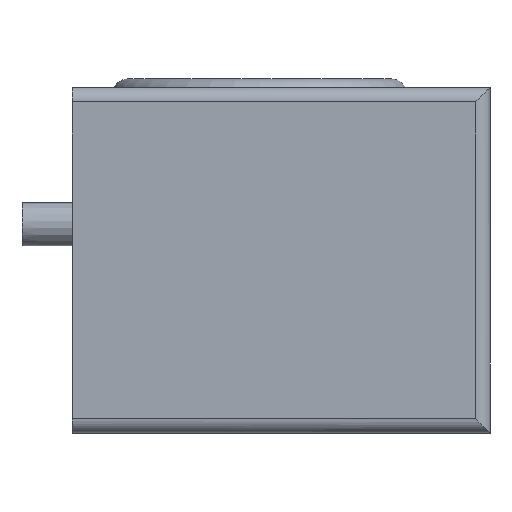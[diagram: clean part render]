
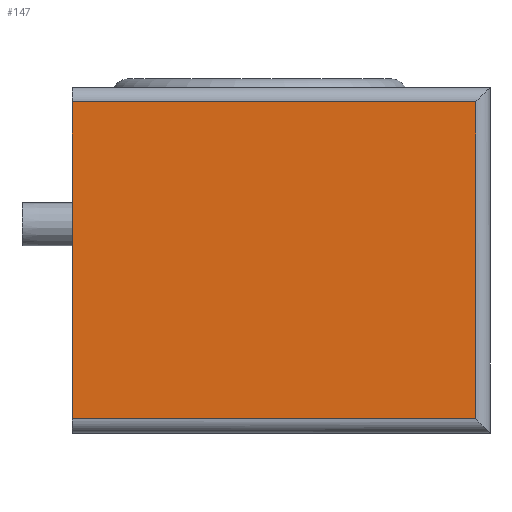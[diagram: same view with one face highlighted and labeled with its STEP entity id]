
A CAD part, left-side view. The second image highlights one B-rep face of the part: STEP entity #147.
In plain terms, the highlighted planar face has unit normal (-1, 0, 0).
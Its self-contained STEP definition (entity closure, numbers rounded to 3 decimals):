
#147=ADVANCED_FACE('',(#336),#337,.F.);
#336=FACE_OUTER_BOUND('',#570,.T.);
#337=PLANE('',#571);
#570=EDGE_LOOP('',(#910,#911,#912,#913));
#571=AXIS2_PLACEMENT_3D('',#914,#915,#916);
#910=ORIENTED_EDGE('',*,*,#1239,.T.);
#911=ORIENTED_EDGE('',*,*,#1240,.T.);
#912=ORIENTED_EDGE('',*,*,#1241,.T.);
#913=ORIENTED_EDGE('',*,*,#1242,.T.);
#914=CARTESIAN_POINT('',(-17.0,0.,9.5));
#915=DIRECTION('',(1.0,0.0,0.0));
#916=DIRECTION('',(0.0,1.0,0.0));
#1239=EDGE_CURVE('',#1455,#1456,#1457,.T.);
#1240=EDGE_CURVE('',#1456,#1458,#1459,.T.);
#1241=EDGE_CURVE('',#1458,#1460,#1461,.T.);
#1242=EDGE_CURVE('',#1460,#1455,#1462,.T.);
#1455=VERTEX_POINT('',#1796);
#1456=VERTEX_POINT('',#1797);
#1457=LINE('',#1798,#1799);
#1458=VERTEX_POINT('',#1800);
#1459=LINE('',#1801,#1802);
#1460=VERTEX_POINT('',#1803);
#1461=LINE('',#1804,#1805);
#1462=LINE('',#1806,#1807);
#1796=CARTESIAN_POINT('',(-17.0,0.,8.5));
#1797=CARTESIAN_POINT('',(-17.0,0.,-13.5));
#1798=CARTESIAN_POINT('',(-17.0,0.,9.5));
#1799=VECTOR('',#2018,1.0);
#1800=CARTESIAN_POINT('',(-17.0,-28.0,-13.5));
#1801=CARTESIAN_POINT('',(-17.0,0.,-13.5));
#1802=VECTOR('',#2019,1.0);
#1803=CARTESIAN_POINT('',(-17.0,-28.0,8.5));
#1804=CARTESIAN_POINT('',(-17.0,-28.0,9.5));
#1805=VECTOR('',#2020,1.0);
#1806=CARTESIAN_POINT('',(-17.0,0.,8.5));
#1807=VECTOR('',#2021,1.0);
#2018=DIRECTION('',(0.0,0.0,-1.0));
#2019=DIRECTION('',(0.0,-1.0,0.0));
#2020=DIRECTION('',(0.0,0.0,1.0));
#2021=DIRECTION('',(0.0,1.0,0.0));
